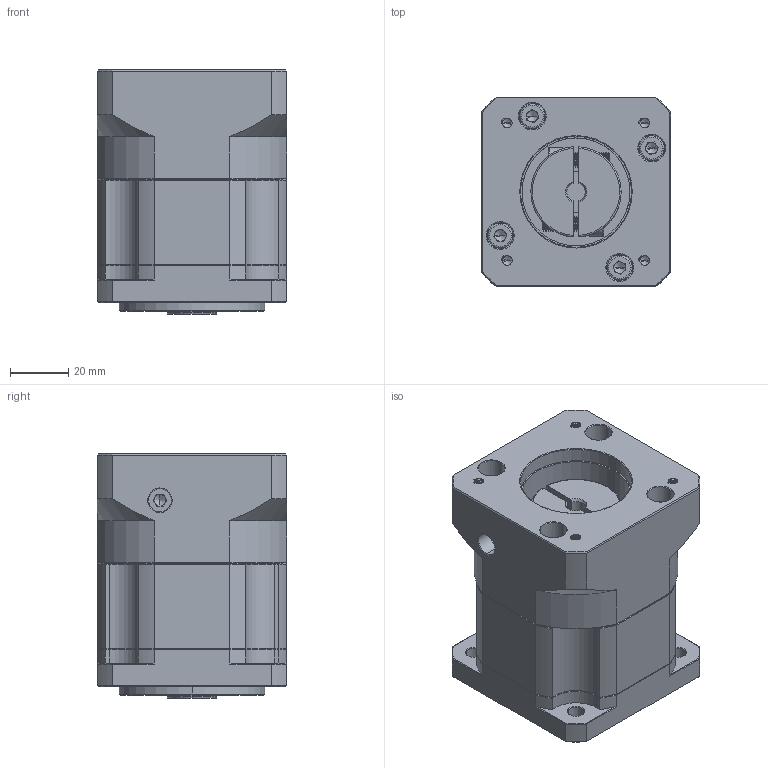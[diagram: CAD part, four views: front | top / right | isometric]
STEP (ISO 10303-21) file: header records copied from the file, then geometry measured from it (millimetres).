
FILE_DESCRIPTION (( 'STEP AP214' ), '1' );
FILE_NAME ('ZB060-K10-L1-P2-6.35-38.1-47.14X47.14-M4.step', '2023-08-16T07:10:07', ( '' ), ( '' ), 'SwSTEP 2.0', 'SolidWorks 2016', '' );
FILE_SCHEMA (( 'AUTOMOTIVE_DESIGN' ));
Length unit declared in the file: millimetre
Products named in the file (1): ZB060-K10-L1-P2-6.35-38.1-47.14X47.14-M4
Bounding box: 65 x 65 x 84 mm (x, y, z)
Volume: 267411 mm3; surface area: 53363.8 mm2
Topology: 6 solids, 6 shells, 2101 faces, 5654 edges, 3644 vertices
Faces by surface type: plane 1056, bspline 390, cylinder 342, cone 279, torus 34
Entity records: 108962 total; most frequent: CARTESIAN_POINT 35964, ORIENTED_EDGE 11252, DIRECTION 8948, EDGE_CURVE 5626, VERTEX_POINT 3644, LINE 3584, VECTOR 3584, AXIS2_PLACEMENT_3D 2682
